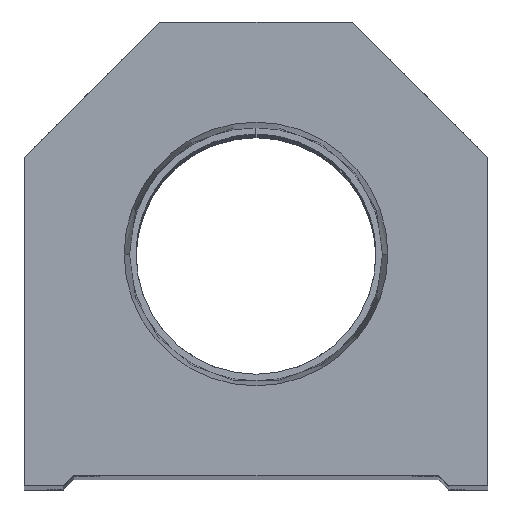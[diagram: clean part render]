
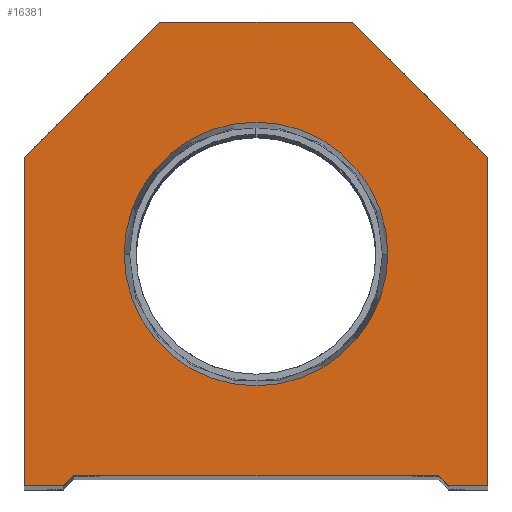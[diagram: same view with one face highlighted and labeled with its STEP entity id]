
A CAD part, top view. The second image highlights one B-rep face of the part: STEP entity #16381.
In plain terms, the highlighted planar face has unit normal (0, 0, 1).
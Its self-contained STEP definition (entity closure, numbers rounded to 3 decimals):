
#286 = VERTEX_POINT ( 'NONE', #17074 ) ;
#298 = CARTESIAN_POINT ( 'NONE',  ( -9.25, 44.5, 0. ) ) ;
#303 = DIRECTION ( 'NONE',  ( 1., 0., 0. ) ) ;
#633 = LINE ( 'NONE', #7313, #7471 ) ;
#923 = FACE_BOUND ( 'NONE', #9718, .T. ) ;
#1024 = EDGE_CURVE ( 'NONE', #13844, #20679, #11549, .T. ) ;
#1131 = DIRECTION ( 'NONE',  ( -0.707, 0.707, 0. ) ) ;
#1251 = VERTEX_POINT ( 'NONE', #22203 ) ;
#1299 = VERTEX_POINT ( 'NONE', #10547 ) ;
#1648 = CARTESIAN_POINT ( 'NONE',  ( -9.25, 9.25, 0. ) ) ;
#1696 = VECTOR ( 'NONE', #303, 1000. ) ;
#1980 = ORIENTED_EDGE ( 'NONE', *, *, #2639, .T. ) ;
#2046 = DIRECTION ( 'NONE',  ( 0., -1., 0. ) ) ;
#2323 = CARTESIAN_POINT ( 'NONE',  ( -17.5, 1., 0. ) ) ;
#2639 = EDGE_CURVE ( 'NONE', #1251, #22652, #633, .T. ) ;
#2836 = ORIENTED_EDGE ( 'NONE', *, *, #10965, .F. ) ;
#3121 = CARTESIAN_POINT ( 'NONE',  ( 17.5, 0., 0. ) ) ;
#3262 = DIRECTION ( 'NONE',  ( 1., 0., 0. ) ) ;
#3409 = EDGE_CURVE ( 'NONE', #1299, #13844, #18946, .T. ) ;
#3737 = LINE ( 'NONE', #19794, #19762 ) ;
#3803 = CARTESIAN_POINT ( 'NONE',  ( 9.25, 9.25, 0. ) ) ;
#3837 = CARTESIAN_POINT ( 'NONE',  ( -18.5, 0., 0. ) ) ;
#4136 = EDGE_CURVE ( 'NONE', #6157, #286, #6119, .T. ) ;
#4263 = AXIS2_PLACEMENT_3D ( 'NONE', #18362, #7710, #7937 ) ;
#4306 = VECTOR ( 'NONE', #1131, 1000. ) ;
#4443 = VERTEX_POINT ( 'NONE', #298 ) ;
#4460 = PLANE ( 'NONE',  #4983 ) ;
#4786 = EDGE_CURVE ( 'NONE', #22652, #20515, #16766, .T. ) ;
#4892 = CARTESIAN_POINT ( 'NONE',  ( 22.25, 31.5, 0. ) ) ;
#4979 = EDGE_CURVE ( 'NONE', #20679, #5305, #6531, .T. ) ;
#4983 = AXIS2_PLACEMENT_3D ( 'NONE', #14778, #11480, #5987 ) ;
#5032 = CARTESIAN_POINT ( 'NONE',  ( -17.5, 0., 0. ) ) ;
#5167 = EDGE_CURVE ( 'NONE', #12195, #22228, #21990, .T. ) ;
#5305 = VERTEX_POINT ( 'NONE', #18571 ) ;
#5987 = DIRECTION ( 'NONE',  ( 1., 0., 0. ) ) ;
#6119 = CIRCLE ( 'NONE', #4263, 12.647 ) ;
#6157 = VERTEX_POINT ( 'NONE', #22132 ) ;
#6531 = LINE ( 'NONE', #4892, #4306 ) ;
#6961 = EDGE_LOOP ( 'NONE', ( #22758, #20739, #8198, #17787, #12334, #20285, #16206, #17353, #14904, #1980 ) ) ;
#7313 = CARTESIAN_POINT ( 'NONE',  ( -22.25, 0., 0. ) ) ;
#7471 = VECTOR ( 'NONE', #2046, 1000. ) ;
#7508 = VECTOR ( 'NONE', #8277, 1000. ) ;
#7710 = DIRECTION ( 'NONE',  ( 0., 0., 1. ) ) ;
#7859 = CIRCLE ( 'NONE', #10857, 12.647 ) ;
#7937 = DIRECTION ( 'NONE',  ( 1., 0., 0. ) ) ;
#8198 = ORIENTED_EDGE ( 'NONE', *, *, #5167, .T. ) ;
#8277 = DIRECTION ( 'NONE',  ( 1., 0., 0. ) ) ;
#9039 = LINE ( 'NONE', #1648, #21710 ) ;
#9079 = DIRECTION ( 'NONE',  ( 0.707, -0.707, 0. ) ) ;
#9270 = CARTESIAN_POINT ( 'NONE',  ( 0., 22.25, 0. ) ) ;
#9718 = EDGE_LOOP ( 'NONE', ( #2836, #14470 ) ) ;
#9798 = EDGE_CURVE ( 'NONE', #22228, #1299, #20083, .T. ) ;
#10306 = VECTOR ( 'NONE', #3262, 1000. ) ;
#10547 = CARTESIAN_POINT ( 'NONE',  ( 18.5, 0., 0. ) ) ;
#10813 = EDGE_CURVE ( 'NONE', #20515, #12195, #9039, .T. ) ;
#10857 = AXIS2_PLACEMENT_3D ( 'NONE', #9270, #16403, #20271 ) ;
#10965 = EDGE_CURVE ( 'NONE', #286, #6157, #7859, .T. ) ;
#11080 = CARTESIAN_POINT ( 'NONE',  ( -17.5, 1., 0. ) ) ;
#11291 = DIRECTION ( 'NONE',  ( -1., 0., 0. ) ) ;
#11457 = CARTESIAN_POINT ( 'NONE',  ( -22.25, 0., 0. ) ) ;
#11480 = DIRECTION ( 'NONE',  ( 0., 0., 1. ) ) ;
#11549 = LINE ( 'NONE', #17276, #16361 ) ;
#12195 = VERTEX_POINT ( 'NONE', #2323 ) ;
#12334 = ORIENTED_EDGE ( 'NONE', *, *, #3409, .T. ) ;
#12410 = DIRECTION ( 'NONE',  ( 0.707, 0.707, 0. ) ) ;
#13844 = VERTEX_POINT ( 'NONE', #19863 ) ;
#14470 = ORIENTED_EDGE ( 'NONE', *, *, #4136, .F. ) ;
#14778 = CARTESIAN_POINT ( 'NONE',  ( 0., 0., 0. ) ) ;
#14904 = ORIENTED_EDGE ( 'NONE', *, *, #22567, .T. ) ;
#15026 = CARTESIAN_POINT ( 'NONE',  ( 9.25, 44.5, 0. ) ) ;
#16125 = EDGE_CURVE ( 'NONE', #5305, #4443, #22435, .T. ) ;
#16206 = ORIENTED_EDGE ( 'NONE', *, *, #4979, .T. ) ;
#16361 = VECTOR ( 'NONE', #22345, 1000. ) ;
#16381 = ADVANCED_FACE ( 'NONE', ( #923, #22168 ), #4460, .T. ) ;
#16403 = DIRECTION ( 'NONE',  ( 0., 0., 1. ) ) ;
#16751 = VECTOR ( 'NONE', #9079, 1000. ) ;
#16766 = LINE ( 'NONE', #5032, #10306 ) ;
#17074 = CARTESIAN_POINT ( 'NONE',  ( 12.647, 22.25, 0. ) ) ;
#17276 = CARTESIAN_POINT ( 'NONE',  ( 22.25, 0., 0. ) ) ;
#17353 = ORIENTED_EDGE ( 'NONE', *, *, #16125, .T. ) ;
#17787 = ORIENTED_EDGE ( 'NONE', *, *, #9798, .T. ) ;
#18362 = CARTESIAN_POINT ( 'NONE',  ( 0., 22.25, 0. ) ) ;
#18449 = CARTESIAN_POINT ( 'NONE',  ( 17.5, 1., 0. ) ) ;
#18456 = VECTOR ( 'NONE', #11291, 1000. ) ;
#18571 = CARTESIAN_POINT ( 'NONE',  ( 9.25, 44.5, 0. ) ) ;
#18643 = CARTESIAN_POINT ( 'NONE',  ( 22.25, 31.5, 0. ) ) ;
#18946 = LINE ( 'NONE', #3121, #7508 ) ;
#19762 = VECTOR ( 'NONE', #20137, 1000. ) ;
#19794 = CARTESIAN_POINT ( 'NONE',  ( -22.25, 31.5, 0. ) ) ;
#19863 = CARTESIAN_POINT ( 'NONE',  ( 22.25, 0., 0. ) ) ;
#20083 = LINE ( 'NONE', #3803, #16751 ) ;
#20137 = DIRECTION ( 'NONE',  ( -0.707, -0.707, 0. ) ) ;
#20271 = DIRECTION ( 'NONE',  ( 1., 0., 0. ) ) ;
#20285 = ORIENTED_EDGE ( 'NONE', *, *, #1024, .T. ) ;
#20515 = VERTEX_POINT ( 'NONE', #3837 ) ;
#20679 = VERTEX_POINT ( 'NONE', #18643 ) ;
#20739 = ORIENTED_EDGE ( 'NONE', *, *, #10813, .T. ) ;
#21710 = VECTOR ( 'NONE', #12410, 1000. ) ;
#21990 = LINE ( 'NONE', #11080, #1696 ) ;
#22132 = CARTESIAN_POINT ( 'NONE',  ( -12.647, 22.25, 0. ) ) ;
#22168 = FACE_OUTER_BOUND ( 'NONE', #6961, .T. ) ;
#22203 = CARTESIAN_POINT ( 'NONE',  ( -22.25, 31.5, 0. ) ) ;
#22228 = VERTEX_POINT ( 'NONE', #18449 ) ;
#22345 = DIRECTION ( 'NONE',  ( 0., 1., 0. ) ) ;
#22435 = LINE ( 'NONE', #15026, #18456 ) ;
#22567 = EDGE_CURVE ( 'NONE', #4443, #1251, #3737, .T. ) ;
#22652 = VERTEX_POINT ( 'NONE', #11457 ) ;
#22758 = ORIENTED_EDGE ( 'NONE', *, *, #4786, .T. ) ;
